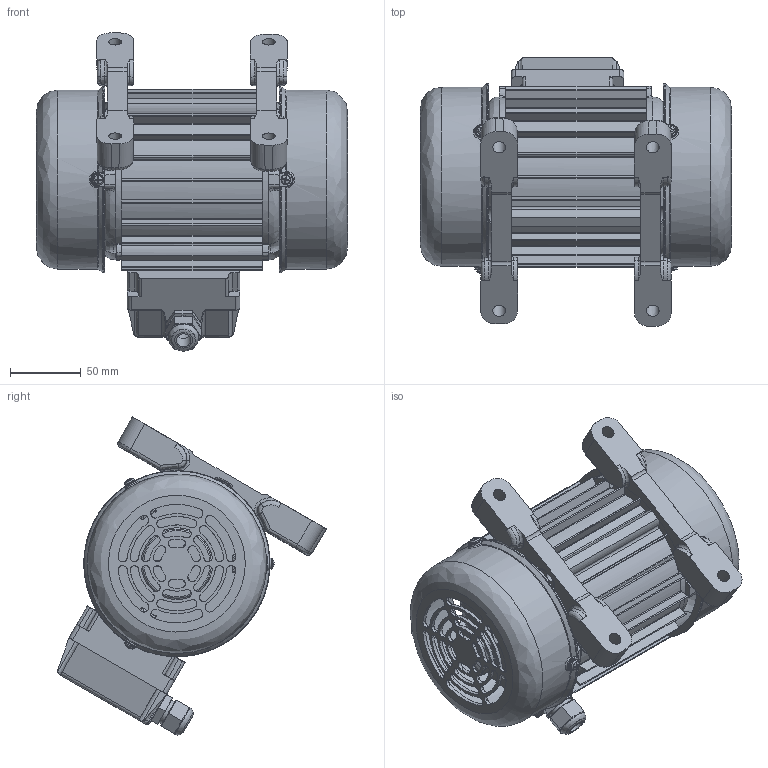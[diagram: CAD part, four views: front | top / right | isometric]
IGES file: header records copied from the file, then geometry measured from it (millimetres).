
Global section: file name: montagem motovibrador; native system: Autodesk Inventor 2023; preprocessor: unknown; author: Projetos; date: 20221125.144117; units: inch
Bounding box: 220.63 x 190.51 x 225.61 mm (x, y, z)
Volume: 783717.2 mm3; surface area: 388269.5 mm2
Topology: 16 solids, 24 shells, 2186 faces, 5991 edges, 3869 vertices
Faces by surface type: bspline 2186
